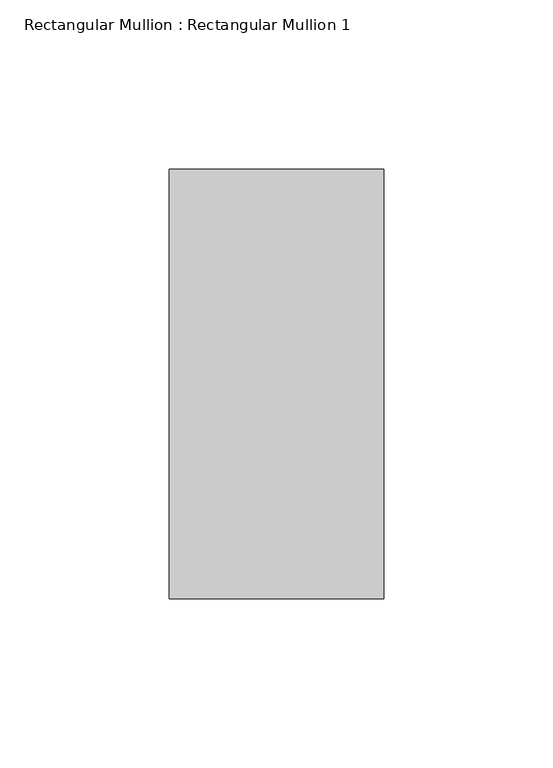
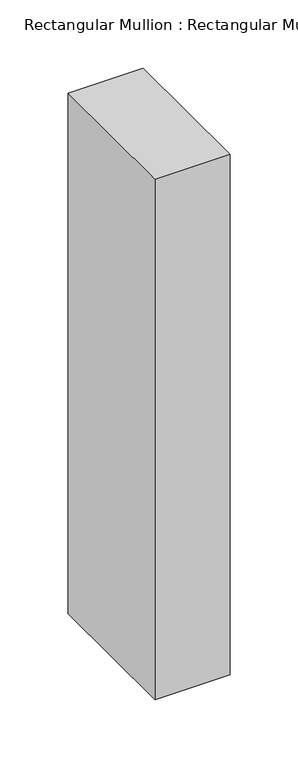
"""IFC4 building model written with IfcOpenShell, lengths in millimetres: member geometry, Rectangular Mullion : Rectangular Mullion 1."""

from ifc_helpers import new_model, si_unit, frame, origin, place, context, project, spatial, polyline, outline, extrude, source, transform, mapped, element, save


def rectangular_mullion_rectangular_mullion_1_3182e34d(model_context):
    return source(origin(), model_context, "Body", "SweptSolid", [
        extrude(outline(polyline([(31.75, 63.5), (31.75, -63.5), (-31.75, -63.5), (-31.75, 63.5), (31.75, 63.5)])), frame((0.0, 0.0, -465.2000724), z_axis=(0.0, 0.0, 1.0), x_axis=(1.0, 0.0, 0.0)), (0.0, 0.0, 1.0), 465.2000724),
    ])


if __name__ == "__main__":
    model = new_model("IFC4")
    model_context = context("Model", 3, world=origin())
    ifc_project = project(units=[si_unit("LENGTHUNIT", "METRE", prefix="MILLI")], contexts=[model_context])
    site = spatial("IfcSite", under=ifc_project)
    building = spatial("IfcBuilding", under=site)
    placement = place(None, origin())
    rectangular_mullion_rectangular_mullion_1_shape = rectangular_mullion_rectangular_mullion_1_3182e34d(model_context)
    element("IfcMember", 1, ObjectType="Rectangular Mullion : Rectangular Mullion 1", at=placement, inside=building, context=model_context, shape_type="MappedRepresentation", body=[
        mapped(rectangular_mullion_rectangular_mullion_1_shape, transform((0.0, 0.0, 0.0), x_axis=(1.0, 0.0, 0.0), y_axis=(0.0, 1.0, 0.0), z_axis=(0.0, 0.0, 1.0))),
    ])
    save(model, "model.ifc")
